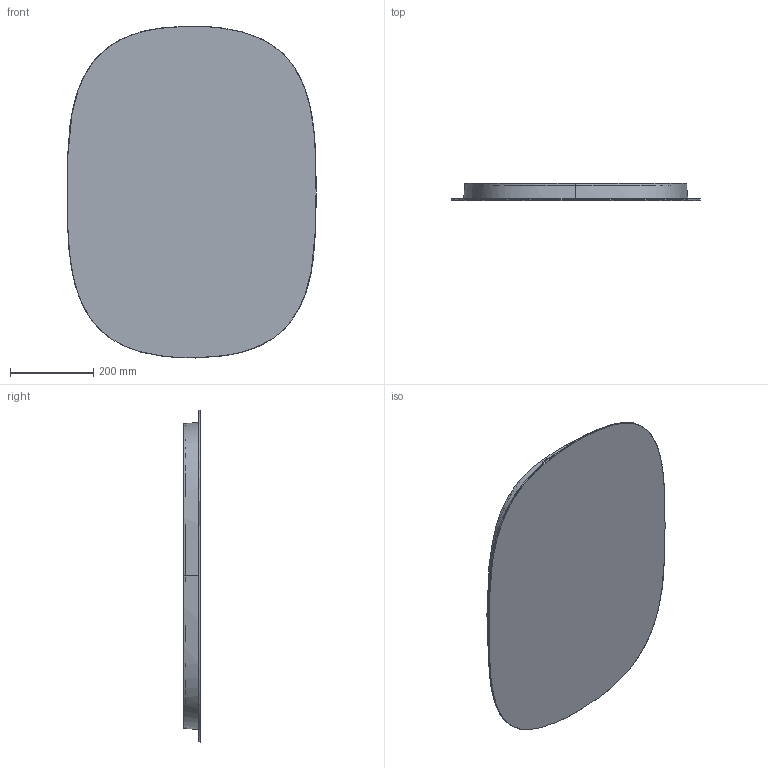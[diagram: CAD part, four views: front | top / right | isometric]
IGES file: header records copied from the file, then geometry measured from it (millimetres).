
Global section: file name: 502800; native system: Autodesk Inventor 2021; preprocessor: unknown; author: JANAN; date: 20221202.150838; units: millimetre
Bounding box: 598.65 x 40.5 x 799.88 mm (x, y, z)
Volume: 2696112.3 mm3; surface area: 1854773.7 mm2
Topology: 2 solids, 2 shells, 225 faces, 583 edges, 369 vertices
Faces by surface type: bspline 225
